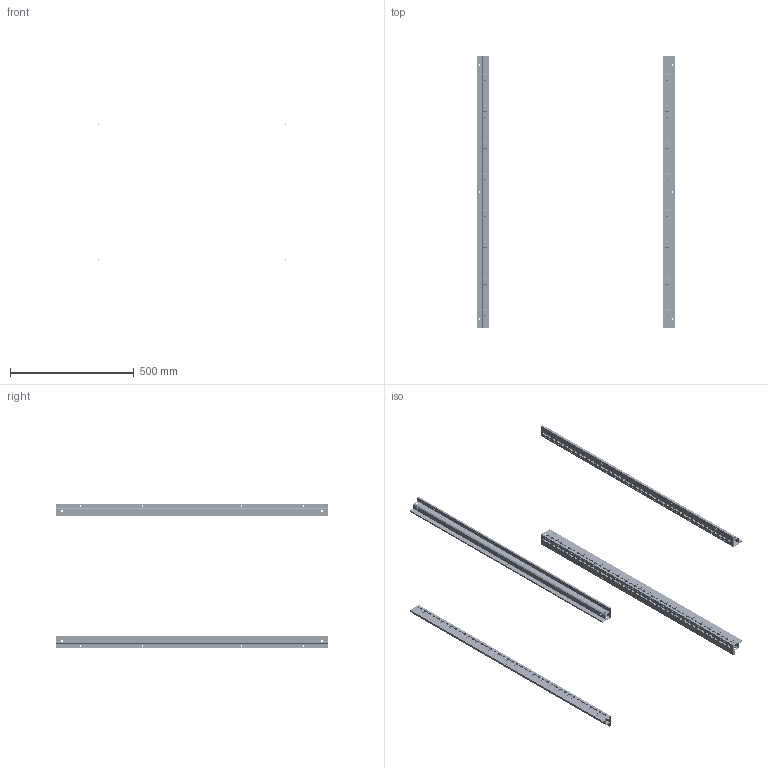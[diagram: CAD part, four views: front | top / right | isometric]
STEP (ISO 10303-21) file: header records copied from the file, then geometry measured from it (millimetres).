
FILE_DESCRIPTION(('Open CASCADE Model'),'2;1');
FILE_NAME('Open CASCADE Shape Model','2025-01-27T17:01:03',('Author'),( 'Open CASCADE'),'Open CASCADE STEP processor 7.8','Open CASCADE 7.8' ,'Unknown');
FILE_SCHEMA(('AUTOMOTIVE_DESIGN { 1 0 10303 214 1 1 1 1 }'));
Length unit declared in the file: millimetre
Products named in the file (2): Compound1; Solid1
Assembly tree (4 placements, depth 2):
  Compound1
    Solid1  x4
Bounding box: 799.4 x 1099 x 585.4 mm (x, y, z)
Volume: 1065475.4 mm3; surface area: 1629111.6 mm2
Topology: 4 solids, 4 shells, 6972 faces, 20640 edges, 13760 vertices
Faces by surface type: cylinder 4208, plane 2764
Full cylindrical faces by diameter (mm): 4.25 x696, 7 x28, 10 x16, 11 x28
Entity records: 60262 total; most frequent: DIRECTION 10760, CARTESIAN_POINT 10348, ORIENTED_EDGE 10320, EDGE_CURVE 5160, AXIS2_PLACEMENT_3D 3852, VERTEX_POINT 3440, LINE 3056, VECTOR 3056
